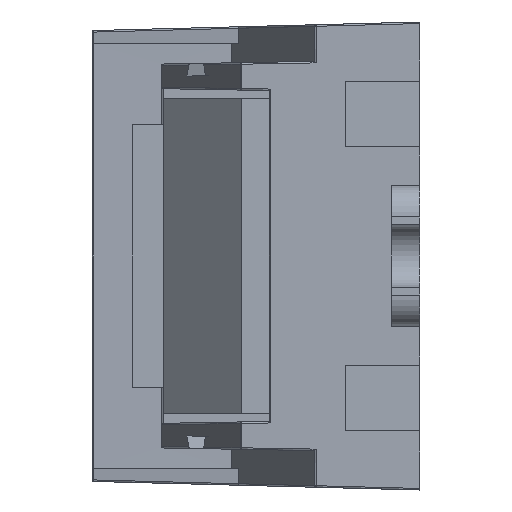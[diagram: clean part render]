
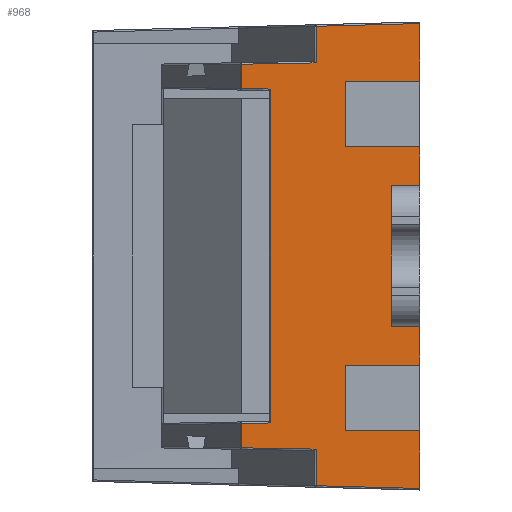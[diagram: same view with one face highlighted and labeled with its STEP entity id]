
A CAD part, left-side view. The second image highlights one B-rep face of the part: STEP entity #968.
In plain terms, the highlighted planar face has unit normal (-1, 0.018, 0).
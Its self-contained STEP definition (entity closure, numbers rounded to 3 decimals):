
#421=FACE_OUTER_BOUND('',#2004,.T.);
#968=ADVANCED_FACE('',(#421),#1518,.F.);
#1518=PLANE('',#10869);
#2004=EDGE_LOOP('',(#5429,#5430,#5431,#5432,#5433,#5434,#5435,#5436,#5437,
#5438,#5439,#5440,#5441,#5442,#5443,#5444,#5445,#5446,#5447,#5448,#5449,
#5450,#5451,#5452));
#2676=LINE('',#14289,#4019);
#2680=LINE('',#14297,#4023);
#2687=LINE('',#14317,#4030);
#2691=LINE('',#14325,#4034);
#2713=LINE('',#14410,#4056);
#2714=LINE('',#14412,#4057);
#2715=LINE('',#14414,#4058);
#2716=LINE('',#14416,#4059);
#2717=LINE('',#14418,#4060);
#2718=LINE('',#14419,#4061);
#2719=LINE('',#14421,#4062);
#2720=LINE('',#14423,#4063);
#2721=LINE('',#14425,#4064);
#2722=LINE('',#14427,#4065);
#2723=LINE('',#14429,#4066);
#2724=LINE('',#14431,#4067);
#2725=LINE('',#14433,#4068);
#2726=LINE('',#14435,#4069);
#2727=LINE('',#14437,#4070);
#2728=LINE('',#14438,#4071);
#2729=LINE('',#14440,#4072);
#2730=LINE('',#14442,#4073);
#2731=LINE('',#14443,#4074);
#2732=LINE('',#14445,#4075);
#4019=VECTOR('',#11561,1.);
#4023=VECTOR('',#11565,1.);
#4030=VECTOR('',#11578,1.);
#4034=VECTOR('',#11582,1.);
#4056=VECTOR('',#11628,1.);
#4057=VECTOR('',#11631,1.);
#4058=VECTOR('',#11632,1.);
#4059=VECTOR('',#11633,1.);
#4060=VECTOR('',#11634,1.);
#4061=VECTOR('',#11635,1.);
#4062=VECTOR('',#11636,1.);
#4063=VECTOR('',#11637,1.);
#4064=VECTOR('',#11638,1.);
#4065=VECTOR('',#11639,1.);
#4066=VECTOR('',#11640,1.);
#4067=VECTOR('',#11641,1.);
#4068=VECTOR('',#11642,1.);
#4069=VECTOR('',#11643,1.);
#4070=VECTOR('',#11644,1.);
#4071=VECTOR('',#11645,1.);
#4072=VECTOR('',#11646,1.);
#4073=VECTOR('',#11647,1.);
#4074=VECTOR('',#11648,1.);
#4075=VECTOR('',#11649,1.);
#5429=ORIENTED_EDGE('',*,*,#9386,.F.);
#5430=ORIENTED_EDGE('',*,*,#9337,.T.);
#5431=ORIENTED_EDGE('',*,*,#9387,.F.);
#5432=ORIENTED_EDGE('',*,*,#9388,.T.);
#5433=ORIENTED_EDGE('',*,*,#9389,.F.);
#5434=ORIENTED_EDGE('',*,*,#9333,.T.);
#5435=ORIENTED_EDGE('',*,*,#9385,.T.);
#5436=ORIENTED_EDGE('',*,*,#9390,.F.);
#5437=ORIENTED_EDGE('',*,*,#9391,.T.);
#5438=ORIENTED_EDGE('',*,*,#9392,.F.);
#5439=ORIENTED_EDGE('',*,*,#9393,.T.);
#5440=ORIENTED_EDGE('',*,*,#9394,.F.);
#5441=ORIENTED_EDGE('',*,*,#9395,.T.);
#5442=ORIENTED_EDGE('',*,*,#9396,.F.);
#5443=ORIENTED_EDGE('',*,*,#9397,.T.);
#5444=ORIENTED_EDGE('',*,*,#9398,.F.);
#5445=ORIENTED_EDGE('',*,*,#9399,.T.);
#5446=ORIENTED_EDGE('',*,*,#9351,.F.);
#5447=ORIENTED_EDGE('',*,*,#9400,.F.);
#5448=ORIENTED_EDGE('',*,*,#9401,.F.);
#5449=ORIENTED_EDGE('',*,*,#9402,.F.);
#5450=ORIENTED_EDGE('',*,*,#9347,.F.);
#5451=ORIENTED_EDGE('',*,*,#9403,.F.);
#5452=ORIENTED_EDGE('',*,*,#9404,.T.);
#8368=VERTEX_POINT('',#14288);
#8369=VERTEX_POINT('',#14290);
#8372=VERTEX_POINT('',#14296);
#8373=VERTEX_POINT('',#14298);
#8382=VERTEX_POINT('',#14316);
#8383=VERTEX_POINT('',#14318);
#8386=VERTEX_POINT('',#14324);
#8387=VERTEX_POINT('',#14326);
#8413=VERTEX_POINT('',#14409);
#8414=VERTEX_POINT('',#14413);
#8415=VERTEX_POINT('',#14415);
#8416=VERTEX_POINT('',#14417);
#8417=VERTEX_POINT('',#14420);
#8418=VERTEX_POINT('',#14422);
#8419=VERTEX_POINT('',#14424);
#8420=VERTEX_POINT('',#14426);
#8421=VERTEX_POINT('',#14428);
#8422=VERTEX_POINT('',#14430);
#8423=VERTEX_POINT('',#14432);
#8424=VERTEX_POINT('',#14434);
#8425=VERTEX_POINT('',#14436);
#8426=VERTEX_POINT('',#14439);
#8427=VERTEX_POINT('',#14441);
#8428=VERTEX_POINT('',#14444);
#9333=EDGE_CURVE('',#8369,#8368,#2676,.T.);
#9337=EDGE_CURVE('',#8373,#8372,#2680,.T.);
#9347=EDGE_CURVE('',#8382,#8383,#2687,.T.);
#9351=EDGE_CURVE('',#8386,#8387,#2691,.T.);
#9385=EDGE_CURVE('',#8368,#8413,#2713,.T.);
#9386=EDGE_CURVE('',#8373,#8414,#2714,.T.);
#9387=EDGE_CURVE('',#8415,#8372,#2715,.T.);
#9388=EDGE_CURVE('',#8415,#8416,#2716,.T.);
#9389=EDGE_CURVE('',#8369,#8416,#2717,.T.);
#9390=EDGE_CURVE('',#8417,#8413,#2718,.T.);
#9391=EDGE_CURVE('',#8417,#8418,#2719,.T.);
#9392=EDGE_CURVE('',#8419,#8418,#2720,.T.);
#9393=EDGE_CURVE('',#8419,#8420,#2721,.T.);
#9394=EDGE_CURVE('',#8421,#8420,#2722,.T.);
#9395=EDGE_CURVE('',#8421,#8422,#2723,.T.);
#9396=EDGE_CURVE('',#8423,#8422,#2724,.T.);
#9397=EDGE_CURVE('',#8423,#8424,#2725,.T.);
#9398=EDGE_CURVE('',#8425,#8424,#2726,.T.);
#9399=EDGE_CURVE('',#8425,#8387,#2727,.T.);
#9400=EDGE_CURVE('',#8426,#8386,#2728,.T.);
#9401=EDGE_CURVE('',#8427,#8426,#2729,.T.);
#9402=EDGE_CURVE('',#8383,#8427,#2730,.T.);
#9403=EDGE_CURVE('',#8428,#8382,#2731,.T.);
#9404=EDGE_CURVE('',#8428,#8414,#2732,.T.);
#10869=AXIS2_PLACEMENT_3D('',#14446,#11650,#11651);
#11561=DIRECTION('',(0.,0.,1.));
#11565=DIRECTION('',(0.,0.,1.));
#11578=DIRECTION('',(0.,0.,-1.));
#11582=DIRECTION('',(0.,0.,-1.));
#11628=DIRECTION('',(0.017,1.,-0.026));
#11631=DIRECTION('',(0.017,1.,0.));
#11632=DIRECTION('',(-0.017,-1.,0.));
#11633=DIRECTION('',(0.,0.,1.));
#11634=DIRECTION('',(0.017,1.,0.));
#11635=DIRECTION('',(0.,0.,1.));
#11636=DIRECTION('',(0.017,1.,-0.017));
#11637=DIRECTION('',(0.,0.,1.));
#11638=DIRECTION('',(-0.017,-1.,-0.017));
#11639=DIRECTION('',(0.,0.,1.));
#11640=DIRECTION('',(0.017,1.,-0.017));
#11641=DIRECTION('',(0.,0.,1.));
#11642=DIRECTION('',(-0.017,-1.,-0.017));
#11643=DIRECTION('',(0.,0.,1.));
#11644=DIRECTION('',(-0.017,-1.,-0.026));
#11645=DIRECTION('',(-0.017,-1.,0.));
#11646=DIRECTION('',(0.,0.,-1.));
#11647=DIRECTION('',(0.017,1.,0.));
#11648=DIRECTION('',(-0.017,-1.,0.));
#11649=DIRECTION('',(0.,0.,1.));
#11650=DIRECTION('',(1.,-0.017,0.));
#11651=DIRECTION('',(0.,0.,-1.));
#14288=CARTESIAN_POINT('',(-51.694,0.35,14.894));
#14289=CARTESIAN_POINT('',(-51.694,0.35,11.198));
#14290=CARTESIAN_POINT('',(-51.694,0.35,11.198));
#14296=CARTESIAN_POINT('',(-51.694,0.35,6.998));
#14297=CARTESIAN_POINT('',(-51.694,0.35,4.5));
#14298=CARTESIAN_POINT('',(-51.694,0.35,4.5));
#14316=CARTESIAN_POINT('',(-51.694,0.35,-4.5));
#14317=CARTESIAN_POINT('',(-51.694,0.35,-4.5));
#14318=CARTESIAN_POINT('',(-51.694,0.35,-6.998));
#14324=CARTESIAN_POINT('',(-51.694,0.35,-11.198));
#14325=CARTESIAN_POINT('',(-51.694,0.35,-11.198));
#14326=CARTESIAN_POINT('',(-51.694,0.35,-14.894));
#14409=CARTESIAN_POINT('',(-51.578,7.004,14.72));
#14410=CARTESIAN_POINT('',(-51.694,0.35,14.894));
#14412=CARTESIAN_POINT('',(-51.694,0.35,4.5));
#14413=CARTESIAN_POINT('',(-51.662,2.15,4.5));
#14414=CARTESIAN_POINT('',(-51.611,5.1,6.998));
#14415=CARTESIAN_POINT('',(-51.611,5.1,6.998));
#14416=CARTESIAN_POINT('',(-51.611,5.1,6.998));
#14417=CARTESIAN_POINT('',(-51.611,5.1,11.198));
#14418=CARTESIAN_POINT('',(-51.694,0.35,11.198));
#14419=CARTESIAN_POINT('',(-51.578,7.004,12.373));
#14420=CARTESIAN_POINT('',(-51.578,7.004,12.373));
#14421=CARTESIAN_POINT('',(-51.578,7.004,12.373));
#14422=CARTESIAN_POINT('',(-51.494,11.784,12.289));
#14423=CARTESIAN_POINT('',(-51.494,11.784,10.731));
#14424=CARTESIAN_POINT('',(-51.494,11.784,10.731));
#14425=CARTESIAN_POINT('',(-51.494,11.784,10.731));
#14426=CARTESIAN_POINT('',(-51.527,9.902,10.698));
#14427=CARTESIAN_POINT('',(-51.527,9.902,-10.698));
#14428=CARTESIAN_POINT('',(-51.527,9.902,-10.698));
#14429=CARTESIAN_POINT('',(-51.527,9.902,-10.698));
#14430=CARTESIAN_POINT('',(-51.494,11.784,-10.731));
#14431=CARTESIAN_POINT('',(-51.494,11.784,-12.289));
#14432=CARTESIAN_POINT('',(-51.494,11.784,-12.289));
#14433=CARTESIAN_POINT('',(-51.494,11.784,-12.289));
#14434=CARTESIAN_POINT('',(-51.578,7.004,-12.373));
#14435=CARTESIAN_POINT('',(-51.578,7.004,-14.72));
#14436=CARTESIAN_POINT('',(-51.578,7.004,-14.72));
#14437=CARTESIAN_POINT('',(-51.578,7.004,-14.72));
#14438=CARTESIAN_POINT('',(-51.611,5.1,-11.198));
#14439=CARTESIAN_POINT('',(-51.611,5.1,-11.198));
#14440=CARTESIAN_POINT('',(-51.611,5.1,-6.998));
#14441=CARTESIAN_POINT('',(-51.611,5.1,-6.998));
#14442=CARTESIAN_POINT('',(-51.694,0.35,-6.998));
#14443=CARTESIAN_POINT('',(-51.662,2.15,-4.5));
#14444=CARTESIAN_POINT('',(-51.662,2.15,-4.5));
#14445=CARTESIAN_POINT('',(-51.662,2.15,-4.5));
#14446=CARTESIAN_POINT('',(-51.7,-0.002,29.864));
